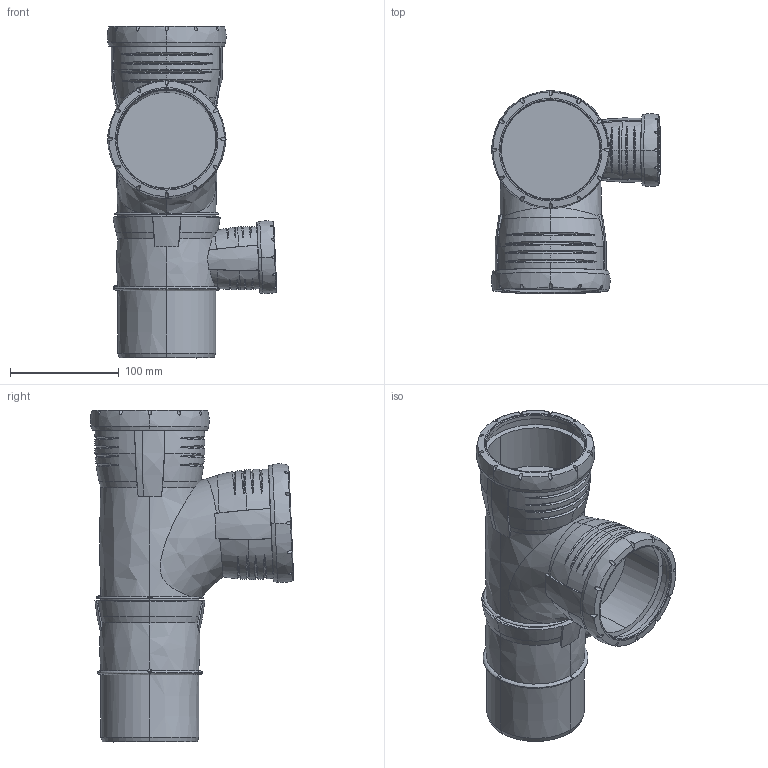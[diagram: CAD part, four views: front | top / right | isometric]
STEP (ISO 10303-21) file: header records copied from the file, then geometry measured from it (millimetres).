
FILE_DESCRIPTION(/* description */ (''),/* implementation_level */ '2;1');
FILE_NAME(/* name */ 'H:\Geberit-Teile\Export\Silent\stp\393470.stp',/* time_stamp */ '2017-03-30T11:40:10+02:00',/* author */ ('seihe2'),/* organization */ (''),/* preprocessor_version */ 'ST-DEVELOPER v15.2',/* originating_system */ 'Autodesk Inventor 2014',/* authorisation */ '');
FILE_SCHEMA (('AUTOMOTIVE_DESIGN { 1 0 10303 214 3 1 1 }'));
Length unit declared in the file: millimetre
Products named in the file (1): 393470
Bounding box: 156.02 x 187.14 x 306 mm (x, y, z)
Volume: 1427386.9 mm3; surface area: 257392.4 mm2
Topology: 1 solids, 1 shells, 532 faces, 1410 edges, 863 vertices
Faces by surface type: bspline 272, cone 118, cylinder 63, torus 42, plane 29, sphere 8
Entity records: 32182 total; most frequent: CARTESIAN_POINT 20360, ORIENTED_EDGE 2802, DIRECTION 1868, EDGE_CURVE 1401, VERTEX_POINT 863, AXIS2_PLACEMENT_3D 824, B_SPLINE_CURVE_WITH_KNOTS 614, CIRCLE 559
